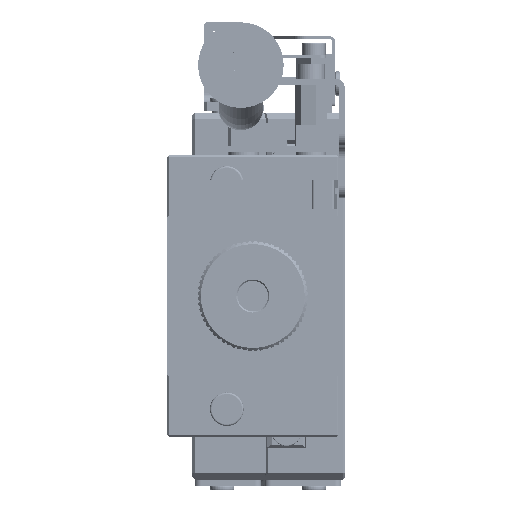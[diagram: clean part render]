
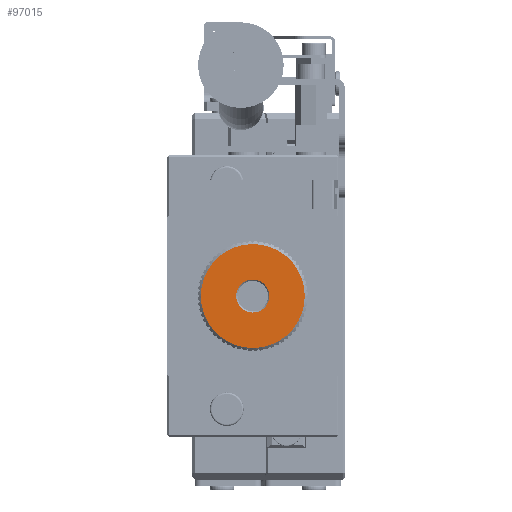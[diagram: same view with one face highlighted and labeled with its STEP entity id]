
A CAD part, front view. The second image highlights one B-rep face of the part: STEP entity #97015.
In plain terms, the highlighted planar face has unit normal (0, -1, 0) as drawn and (0, 0, 1) by its records, which use the part's own axes.
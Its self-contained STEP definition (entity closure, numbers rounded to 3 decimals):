
#2958 = CARTESIAN_POINT ( 'NONE',  ( -2.7, 0., 9.5 ) ) ;
#9063 = CARTESIAN_POINT ( 'NONE',  ( 0., 0., 9.5 ) ) ;
#13375 = AXIS2_PLACEMENT_3D ( 'NONE', #84029, #147220, #158054 ) ;
#23892 = EDGE_LOOP ( 'NONE', ( #148408, #52097 ) ) ;
#25854 = CIRCLE ( 'NONE', #73588, 2.7 ) ;
#33616 = ORIENTED_EDGE ( 'NONE', *, *, #142434, .T. ) ;
#37571 = AXIS2_PLACEMENT_3D ( 'NONE', #108099, #132256, #96480 ) ;
#42931 = CARTESIAN_POINT ( 'NONE',  ( -8.5, 0., 9.5 ) ) ;
#45405 = VERTEX_POINT ( 'NONE', #42931 ) ;
#47403 = VERTEX_POINT ( 'NONE', #2958 ) ;
#52097 = ORIENTED_EDGE ( 'NONE', *, *, #93661, .T. ) ;
#60005 = CARTESIAN_POINT ( 'NONE',  ( 0., 0., 9.5 ) ) ;
#60268 = VERTEX_POINT ( 'NONE', #92314 ) ;
#63922 = CIRCLE ( 'NONE', #13375, 2.7 ) ;
#64271 = AXIS2_PLACEMENT_3D ( 'NONE', #60005, #134076, #95833 ) ;
#66914 = CIRCLE ( 'NONE', #64271, 8.5 ) ;
#69839 = EDGE_CURVE ( 'NONE', #60268, #47403, #25854, .T. ) ;
#69919 = FACE_BOUND ( 'NONE', #78260, .T. ) ;
#73588 = AXIS2_PLACEMENT_3D ( 'NONE', #159701, #158861, #133115 ) ;
#74304 = AXIS2_PLACEMENT_3D ( 'NONE', #9063, #112094, #100435 ) ;
#75656 = CARTESIAN_POINT ( 'NONE',  ( 8.5, 0., 9.5 ) ) ;
#78260 = EDGE_LOOP ( 'NONE', ( #154992, #33616 ) ) ;
#79554 = CIRCLE ( 'NONE', #74304, 8.5 ) ;
#84029 = CARTESIAN_POINT ( 'NONE',  ( 0., 0., 9.5 ) ) ;
#92314 = CARTESIAN_POINT ( 'NONE',  ( 2.7, 0., 9.5 ) ) ;
#93661 = EDGE_CURVE ( 'NONE', #109581, #45405, #79554, .T. ) ;
#95833 = DIRECTION ( 'NONE',  ( 1., 0., 0. ) ) ;
#96480 = DIRECTION ( 'NONE',  ( 1., 0., 0. ) ) ;
#97015 = ADVANCED_FACE ( 'NONE', ( #69919, #144767 ), #158039, .T. ) ;
#100435 = DIRECTION ( 'NONE',  ( 1., 0., 0. ) ) ;
#108099 = CARTESIAN_POINT ( 'NONE',  ( 0., 0., 9.5 ) ) ;
#109581 = VERTEX_POINT ( 'NONE', #75656 ) ;
#112094 = DIRECTION ( 'NONE',  ( 0., 0., 1. ) ) ;
#132256 = DIRECTION ( 'NONE',  ( 0., 0., 1. ) ) ;
#133115 = DIRECTION ( 'NONE',  ( 1., 0., 0. ) ) ;
#134076 = DIRECTION ( 'NONE',  ( 0., 0., 1. ) ) ;
#142434 = EDGE_CURVE ( 'NONE', #47403, #60268, #63922, .T. ) ;
#144674 = EDGE_CURVE ( 'NONE', #45405, #109581, #66914, .T. ) ;
#144767 = FACE_OUTER_BOUND ( 'NONE', #23892, .T. ) ;
#147220 = DIRECTION ( 'NONE',  ( 0., 0., -1. ) ) ;
#148408 = ORIENTED_EDGE ( 'NONE', *, *, #144674, .T. ) ;
#154992 = ORIENTED_EDGE ( 'NONE', *, *, #69839, .T. ) ;
#158039 = PLANE ( 'NONE',  #37571 ) ;
#158054 = DIRECTION ( 'NONE',  ( 1., 0., 0. ) ) ;
#158861 = DIRECTION ( 'NONE',  ( 0., 0., -1. ) ) ;
#159701 = CARTESIAN_POINT ( 'NONE',  ( 0., 0., 9.5 ) ) ;
